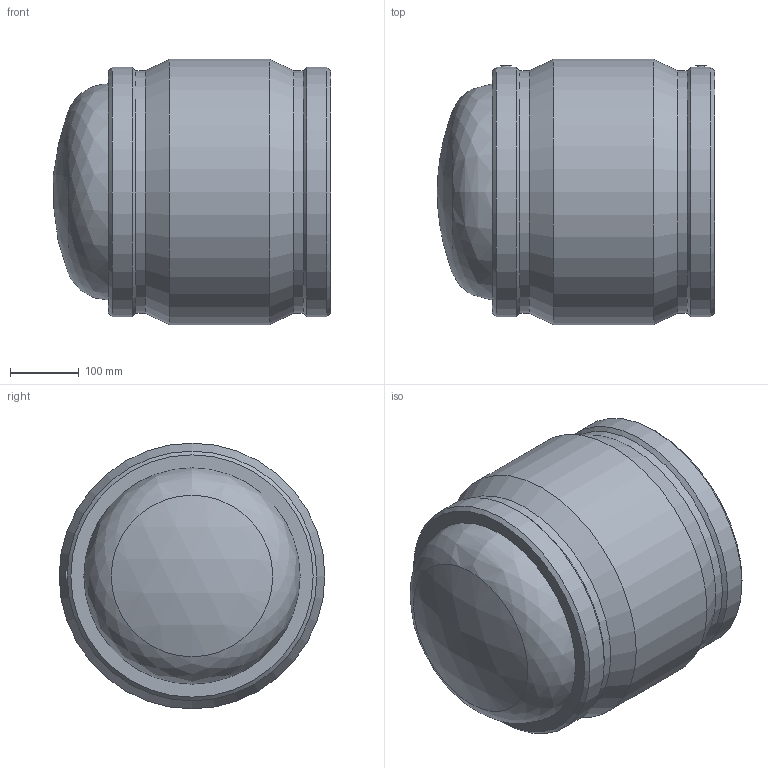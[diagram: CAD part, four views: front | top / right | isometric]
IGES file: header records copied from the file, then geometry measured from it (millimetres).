
Global section: file name: 491204315.ipt; native system: Autodesk Inventor 2015; preprocessor: unknown; author: KIM; date: 20171106.093804; units: millimetre
Bounding box: 404.09 x 387 x 387 mm (x, y, z)
Volume: 17452963.4 mm3; surface area: 946751.5 mm2
Topology: 1 solids, 3 shells, 40 faces, 84 edges, 58 vertices
Faces by surface type: plane 12, revolution 11, cylinder 8, cone 8, sphere 1
Full cylindrical faces by diameter (mm): 4 x2, 315 x1, 352.867 x2, 363.78 x2, 387 x1
